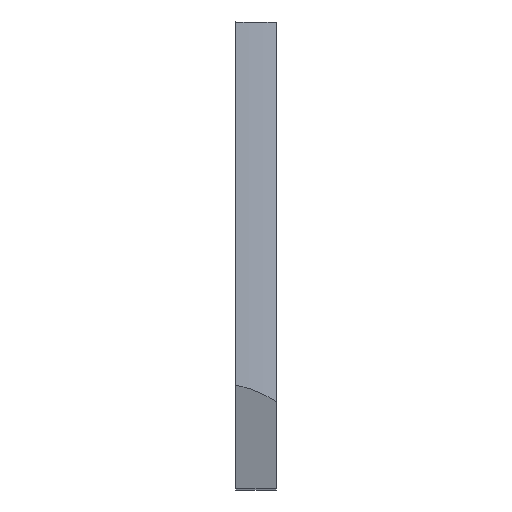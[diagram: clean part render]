
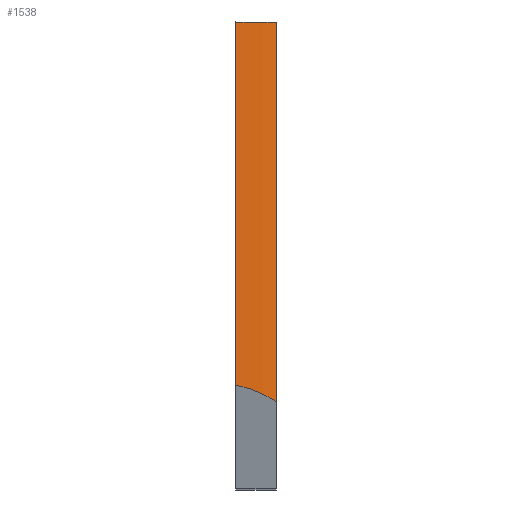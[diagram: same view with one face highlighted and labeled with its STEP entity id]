
A CAD part, top view. The second image highlights one B-rep face of the part: STEP entity #1538.
In plain terms, the highlighted cylindrical face has radius 47.331 mm (diameter 94.662 mm), a partial arc.
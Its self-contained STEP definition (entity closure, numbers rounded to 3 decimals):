
#27=ELLIPSE('',#1643,183.694,47.331);
#119=FACE_OUTER_BOUND('',#207,.T.);
#207=EDGE_LOOP('',(#1064,#1065,#1066,#1067));
#347=LINE('',#2336,#472);
#348=LINE('',#2339,#473);
#472=VECTOR('',#1845,10.);
#473=VECTOR('',#1848,10.);
#596=CIRCLE('',#1645,47.331);
#691=VERTEX_POINT('',#2327);
#693=VERTEX_POINT('',#2331);
#694=VERTEX_POINT('',#2335);
#695=VERTEX_POINT('',#2337);
#838=EDGE_CURVE('',#691,#693,#27,.T.);
#839=EDGE_CURVE('',#694,#693,#347,.T.);
#840=EDGE_CURVE('',#695,#694,#596,.T.);
#841=EDGE_CURVE('',#695,#691,#348,.T.);
#1064=ORIENTED_EDGE('',*,*,#838,.T.);
#1065=ORIENTED_EDGE('',*,*,#839,.F.);
#1066=ORIENTED_EDGE('',*,*,#840,.F.);
#1067=ORIENTED_EDGE('',*,*,#841,.T.);
#1494=CYLINDRICAL_SURFACE('',#1644,47.331);
#1538=ADVANCED_FACE('',(#119),#1494,.T.);
#1643=AXIS2_PLACEMENT_3D('',#2333,#1841,#1842);
#1644=AXIS2_PLACEMENT_3D('',#2334,#1843,#1844);
#1645=AXIS2_PLACEMENT_3D('',#2338,#1846,#1847);
#1841=DIRECTION('center_axis',(0.,0.258,-0.966));
#1842=DIRECTION('ref_axis',(0.,0.966,0.258));
#1843=DIRECTION('center_axis',(0.,-1.,0.));
#1844=DIRECTION('ref_axis',(0.046,0.,0.999));
#1845=DIRECTION('',(0.,-1.,0.));
#1846=DIRECTION('center_axis',(0.,1.,0.));
#1847=DIRECTION('ref_axis',(0.046,0.,0.999));
#1848=DIRECTION('',(0.,-1.,0.));
#2327=CARTESIAN_POINT('',(35.426,-314.992,69.033));
#2331=CARTESIAN_POINT('',(41.226,-317.354,68.403));
#2333=CARTESIAN_POINT('Origin',(33.226,-492.292,21.753));
#2334=CARTESIAN_POINT('Origin',(33.226,-263.2,21.753));
#2335=CARTESIAN_POINT('',(41.226,-263.2,68.403));
#2336=CARTESIAN_POINT('',(41.226,-263.2,68.403));
#2337=CARTESIAN_POINT('',(35.426,-263.2,69.033));
#2338=CARTESIAN_POINT('Origin',(33.226,-263.2,21.753));
#2339=CARTESIAN_POINT('',(35.426,-263.2,69.033));
